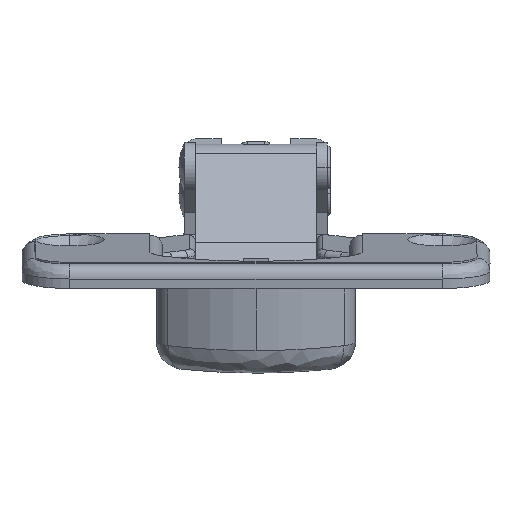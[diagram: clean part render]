
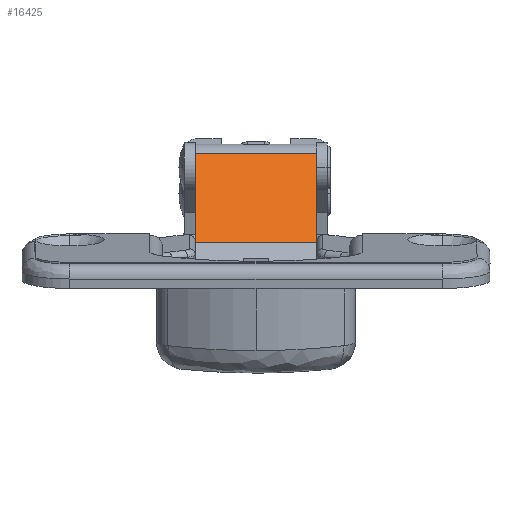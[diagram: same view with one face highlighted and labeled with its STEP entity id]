
A CAD part, top view. The second image highlights one B-rep face of the part: STEP entity #16425.
In plain terms, the highlighted planar face has unit normal (0, 0.588, 0.809) as drawn and (0.032, 0.999, 0) by its records, which use the part's own axes.
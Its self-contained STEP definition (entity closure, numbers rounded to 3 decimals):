
#938 = EDGE_LOOP ( 'NONE', ( #3968, #3969, #3970, #3971 ) ) ;
#1327 = LINE ( 'NONE', #4954, #1330 ) ;
#1328 = LINE ( 'NONE', #4952, #1332 ) ;
#1330 = VECTOR ( 'NONE', #4935, 1000. ) ;
#1331 = LINE ( 'NONE', #4960, #1334 ) ;
#1332 = VECTOR ( 'NONE', #4959, 1000. ) ;
#1334 = VECTOR ( 'NONE', #4961, 1000. ) ;
#1416 = LINE ( 'NONE', #7701, #1421 ) ;
#1421 = VECTOR ( 'NONE', #7710, 1000. ) ;
#3304 = FACE_OUTER_BOUND ( 'NONE', #938, .T. ) ;
#3968 = ORIENTED_EDGE ( 'NONE', *, *, #15304, .F. ) ;
#3969 = ORIENTED_EDGE ( 'NONE', *, *, #15235, .F. ) ;
#3970 = ORIENTED_EDGE ( 'NONE', *, *, #15234, .T. ) ;
#3971 = ORIENTED_EDGE ( 'NONE', *, *, #15233, .T. ) ;
#4935 = DIRECTION ( 'NONE',  ( -0.999, 0.032, 0. ) ) ;
#4952 = CARTESIAN_POINT ( 'NONE',  ( 19.286, 2.699, 0. ) ) ;
#4954 = CARTESIAN_POINT ( 'NONE',  ( 6.561, 3.102, -7. ) ) ;
#4959 = DIRECTION ( 'NONE',  ( 0., 0., -1. ) ) ;
#4960 = CARTESIAN_POINT ( 'NONE',  ( 19.286, 2.699, 7. ) ) ;
#4961 = DIRECTION ( 'NONE',  ( -0.999, 0.032, 0. ) ) ;
#7440 = CARTESIAN_POINT ( 'NONE',  ( 19.286, 2.699, -7. ) ) ;
#7701 = CARTESIAN_POINT ( 'NONE',  ( 6.561, 3.102, 0. ) ) ;
#7710 = DIRECTION ( 'NONE',  ( 0., 0., -1. ) ) ;
#13814 = CARTESIAN_POINT ( 'NONE',  ( 6.561, 3.102, 7. ) ) ;
#13872 = CARTESIAN_POINT ( 'NONE',  ( 6.561, 3.102, -7. ) ) ;
#13879 = CARTESIAN_POINT ( 'NONE',  ( 19.286, 2.699, 7. ) ) ;
#14621 = AXIS2_PLACEMENT_3D ( 'NONE', #19185, #19191, #19192 ) ;
#15233 = EDGE_CURVE ( 'NONE', #31030, #31008, #1327, .T. ) ;
#15234 = EDGE_CURVE ( 'NONE', #31015, #31030, #1328, .T. ) ;
#15235 = EDGE_CURVE ( 'NONE', #31015, #30950, #1331, .T. ) ;
#15304 = EDGE_CURVE ( 'NONE', #30950, #31008, #1416, .T. ) ;
#16425 = ADVANCED_FACE ( 'NONE', ( #3304 ), #19189, .F. ) ;
#19185 = CARTESIAN_POINT ( 'NONE',  ( 6.561, 3.102, -7. ) ) ;
#19189 = PLANE ( 'NONE',  #14621 ) ;
#19191 = DIRECTION ( 'NONE',  ( -0.032, -0.999, 0. ) ) ;
#19192 = DIRECTION ( 'NONE',  ( 0.999, -0.032, 0. ) ) ;
#30950 = VERTEX_POINT ( 'NONE', #13814 ) ;
#31008 = VERTEX_POINT ( 'NONE', #13872 ) ;
#31015 = VERTEX_POINT ( 'NONE', #13879 ) ;
#31030 = VERTEX_POINT ( 'NONE', #7440 ) ;
